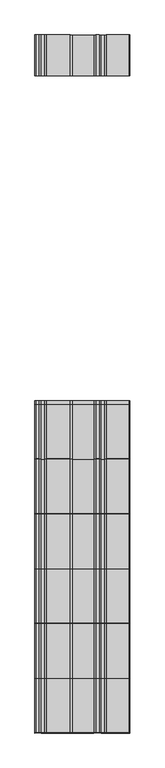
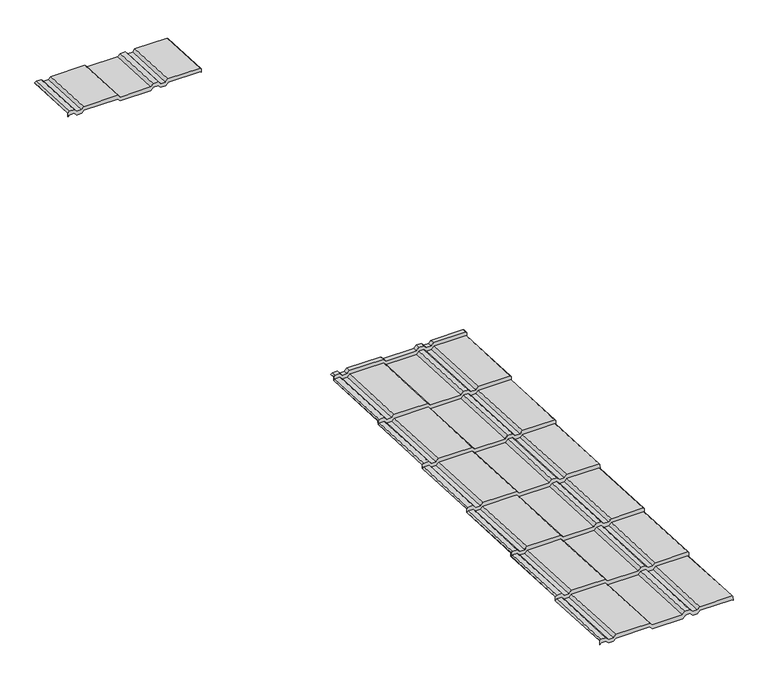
"""IFC4 building model written with IfcOpenShell, lengths in millimetres: proxy geometry, AQUAPLAST - Blachodachówka Alice na wymiar : Blachodachówka Alice."""

from ifc_helpers import new_model, si_unit, origin, place, context, project, spatial, faceted_brep, source, transform, mapped, element, save


def specialty_equipment_409f0931(model_context):
    return source(origin(), model_context, "Body", "Brep", [
        faceted_brep([(-566.0477972, 2096.6197377, 29.0407544), (-571.7598776, 2096.3357252, 23.3357391), (-571.7598776, 2095.5215377, 6.9809929), (-566.0477972, 2095.8055502, 12.6860082), (-543.5017928, 2095.8055502, 12.6860082), (-532.0017928, 2095.2337544, 1.2002323), (-510.6231132, 2095.2337544, 1.2002323), (-499.6231132, 2095.7806895, 12.1866267), (-345.1055852, 2095.7806895, 12.1866267), (-333.6055852, 2095.2088937, 0.7008507), (-195.9354926, 2095.2088937, 0.7008507), (-183.9354926, 2095.8055502, 12.6860082), (-161.7088996, 2095.8055502, 12.6860082), (-149.7088996, 2095.2088937, 0.7008507), (-128.1231132, 2095.2088937, 0.7008507), (-116.6231132, 2095.7806895, 12.1866267), (30.5086777, 2095.7806895, 12.1866267), (34.2401224, 2095.595157, 8.4597973), (34.2401224, 2096.4093445, 24.8145435), (30.5086777, 2096.594877, 28.5413729), (-116.6231132, 2096.594877, 28.5413729), (-128.1231132, 2096.0230812, 17.0555969), (-149.7088996, 2096.0230812, 17.0555969), (-161.7088996, 2096.6197377, 29.0407544), (-183.9354926, 2096.6197377, 29.0407544), (-195.9354926, 2096.0230812, 17.0555969), (-333.6055852, 2096.0230812, 17.0555969), (-345.1055852, 2096.594877, 28.5413729), (-499.6231132, 2096.594877, 28.5413729), (-510.6231132, 2096.0479419, 17.5549785), (-532.0017928, 2096.0479419, 17.5549785), (-543.5017928, 2096.6197377, 29.0407544), (-510.4160064, 2116.9971069, 16.0114481), (-532.2088996, 2116.9971069, 16.0114481), (-543.7088996, 2117.5689027, 27.497224), (-565.8406904, 2117.5689027, 27.497224), (-571.7598776, 2117.2745926, 21.5853581), (-571.7598776, 2117.3097509, 22.2915903), (-566.0477972, 2117.5937634, 27.9966056), (-543.5017928, 2117.5937634, 27.9966056), (-532.0017928, 2117.0219676, 16.5108296), (-510.6231132, 2117.0219676, 16.5108296), (-499.6231132, 2117.5689027, 27.497224), (-345.1055852, 2117.5689027, 27.497224), (-333.6055852, 2116.9971069, 16.0114481), (-195.9354926, 2116.9971069, 16.0114481), (-183.9354926, 2117.5937634, 27.9966056), (-161.7088996, 2117.5937634, 27.9966056), (-149.7088996, 2116.9971069, 16.0114481), (-128.1231132, 2116.9971069, 16.0114481), (-116.6231132, 2117.5689027, 27.497224), (30.5086777, 2117.5689027, 27.497224), (34.2401224, 2117.3833701, 23.7703947), (34.2401224, 2117.3482118, 23.0641625), (30.3015709, 2117.544042, 26.9978425), (-116.4160064, 2117.544042, 26.9978425), (-127.9160064, 2116.9722462, 15.5120665), (-149.9160064, 2116.9722462, 15.5120665), (-161.9160064, 2117.5689027, 27.497224), (-183.7283858, 2117.5689027, 27.497224), (-195.7283858, 2116.9722462, 15.5120665), (-333.8126919, 2116.9722462, 15.5120665), (-345.3126919, 2117.544042, 26.9978425), (-499.4160064, 2117.544042, 26.9978425), (-510.4160064, 2097.0218443, 17.0058755), (-532.2088996, 2097.0218443, 17.0058755), (-543.7088996, 2097.5936401, 28.4916515), (-565.8406904, 2097.5936401, 28.4916515), (-571.7598776, 2097.29933, 22.5797856), (-566.0477972, 2097.6185008, 28.9910331), (-543.5017928, 2097.6185008, 28.9910331), (-532.0017928, 2097.046705, 17.5052571), (-510.6231132, 2097.046705, 17.5052571), (-499.6231132, 2097.5936401, 28.4916515), (-345.1055852, 2097.5936401, 28.4916515), (-333.6055852, 2097.0218443, 17.0058755), (-195.9354926, 2097.0218443, 17.0058755), (-183.9354926, 2097.6185008, 28.9910331), (-161.7088996, 2097.6185008, 28.9910331), (-149.7088996, 2097.0218443, 17.0058755), (-128.1231132, 2097.0218443, 17.0058755), (-116.6231132, 2097.5936401, 28.4916515), (30.5086777, 2097.5936401, 28.4916515), (34.2401224, 2097.3729493, 24.0585899), (30.3015709, 2097.5687795, 27.9922699), (-116.4160064, 2097.5687795, 27.9922699), (-127.9160064, 2096.9969837, 16.506494), (-149.9160064, 2096.9969837, 16.506494), (-161.9160064, 2097.5936401, 28.4916515), (-183.7283858, 2097.5936401, 28.4916515), (-195.7283858, 2096.9969837, 16.506494), (-333.8126919, 2096.9969837, 16.506494), (-345.3126919, 2097.5687795, 27.9922699), (-499.4160064, 2097.5687795, 27.9922699), (-566.0477972, 1396.8, 29.9628938), (-571.7598776, 1396.5159875, 24.2578785), (-571.7598776, 1395.6504822, 6.8723021), (-565.8406904, 1395.9447924, 12.784168), (-543.7088996, 1395.9447924, 12.784168), (-532.2088996, 1395.3729966, 1.2983921), (-510.4160064, 1395.3729966, 1.2983921), (-499.4160064, 1395.9199317, 12.2847865), (-345.3126919, 1395.9199317, 12.2847865), (-333.8126919, 1395.3481359, 0.7990105), (-195.7283858, 1395.3481359, 0.7990105), (-183.7283858, 1395.9447924, 12.784168), (-161.9160064, 1395.9447924, 12.784168), (-149.9160064, 1395.3481359, 0.7990105), (-127.9160064, 1395.3481359, 0.7990105), (-116.4160064, 1395.9199317, 12.2847865), (30.3015709, 1395.9199317, 12.2847865), (34.2401224, 1395.7241015, 8.3511065), (34.2401224, 1396.5896068, 25.7366829), (30.5086777, 1396.7751393, 29.4635123), (-116.6231132, 1396.7751393, 29.4635123), (-128.1231132, 1396.2033435, 17.9777363), (-149.7088996, 1396.2033435, 17.9777363), (-161.7088996, 1396.8, 29.9628938), (-183.9354926, 1396.8, 29.9628938), (-195.9354926, 1396.2033435, 17.9777363), (-333.6055852, 1396.2033435, 17.9777363), (-345.1055852, 1396.7751393, 29.4635123), (-499.6231132, 1396.7751393, 29.4635123), (-510.6231132, 1396.2282042, 18.4771179), (-532.0017928, 1396.2282042, 18.4771179), (-543.5017928, 1396.8, 29.9628938), (-510.4160064, 1745.7704382, 0.5752554), (-532.2088996, 1745.7704382, 0.5752554), (-543.7088996, 1746.342234, 12.0610314), (-565.8406904, 1746.342234, 12.0610314), (-571.7598776, 1746.0479238, 6.1491655), (-571.7598776, 1746.9180479, 23.6275202), (-565.8406904, 1747.212358, 29.5393861), (-543.7088996, 1747.212358, 29.5393861), (-532.2088996, 1746.6405622, 18.0536102), (-510.4160064, 1746.6405622, 18.0536102), (-499.4160064, 1747.1874973, 29.0400046), (-345.3126919, 1747.1874973, 29.0400046), (-333.8126919, 1746.6157015, 17.5542286), (-195.7283858, 1746.6157015, 17.5542286), (-183.7283858, 1747.212358, 29.5393861), (-161.9160064, 1747.212358, 29.5393861), (-149.9160064, 1746.6157015, 17.5542286), (-127.9160064, 1746.6157015, 17.5542286), (-116.4160064, 1747.1874973, 29.0400046), (30.3015709, 1747.1874973, 29.0400046), (34.2401224, 1746.9916671, 25.1063246), (34.2401224, 1746.1215431, 7.6279699), (30.3015709, 1746.3173733, 11.5616498), (-116.4160064, 1746.3173733, 11.5616498), (-127.9160064, 1745.7455775, 0.0758739), (-149.9160064, 1745.7455775, 0.0758739), (-161.9160064, 1746.342234, 12.0610314), (-183.7283858, 1746.342234, 12.0610314), (-195.7283858, 1745.7455775, 0.0758739), (-333.8126919, 1745.7455775, 0.0758739), (-345.3126919, 1746.3173733, 11.5616498), (-499.4160064, 1746.3173733, 11.5616498), (-510.6231132, 1744.7965357, 1.1243584), (-532.0017928, 1744.7965357, 1.1243584), (-499.6231132, 1745.3434708, 12.1107528), (-345.1055852, 1745.3434708, 12.1107528), (-333.6055852, 1744.771675, 0.6249768), (-195.9354926, 1744.771675, 0.6249768), (-183.9354926, 1745.3683315, 12.6101343), (-161.7088996, 1745.3683315, 12.6101343), (-149.7088996, 1744.771675, 0.6249768), (-128.1231132, 1744.771675, 0.6249768), (-116.6231132, 1745.3434708, 12.1107528), (30.5086777, 1745.3434708, 12.1107528), (34.2401224, 1745.1579383, 8.3839234), (34.2401224, 1397.5532116, 24.9807293), (30.3015709, 1397.7490418, 28.9144093), (30.3015709, 1745.3186101, 11.6113712), (-116.4160064, 1397.7490418, 28.9144093), (-116.4160064, 1745.3186101, 11.6113712), (-127.9160064, 1397.177246, 17.4286334), (-127.9160064, 1744.7468143, 0.1255953), (-149.9160064, 1397.177246, 17.4286334), (-149.9160064, 1744.7468143, 0.1255953), (-161.9160064, 1397.7739024, 29.4137909), (-161.9160064, 1745.3434708, 12.1107528), (-183.7283858, 1397.7739024, 29.4137909), (-183.7283858, 1745.3434708, 12.1107528), (-195.7283858, 1397.177246, 17.4286334), (-195.7283858, 1744.7468143, 0.1255953), (-333.8126919, 1397.177246, 17.4286334), (-333.8126919, 1744.7468143, 0.1255953), (-345.3126919, 1397.7490418, 28.9144093), (-345.3126919, 1745.3186101, 11.6113712), (-499.4160064, 1397.7490418, 28.9144093), (-499.4160064, 1745.3186101, 11.6113712), (-510.4160064, 1397.2021066, 17.9280149), (-510.4160064, 1744.771675, 0.6249768), (-532.2088996, 1397.2021066, 17.9280149), (-532.2088996, 1744.771675, 0.6249768), (-543.7088996, 1397.7739024, 29.4137909), (-543.7088996, 1745.3434708, 12.1107528), (-565.8406904, 1397.7739024, 29.4137909), (-565.8406904, 1745.3434708, 12.1107528), (-571.7598776, 1397.4795923, 23.501925), (-566.0477972, 1745.3683315, 12.6101343), (-571.7598776, 1745.084319, 6.905119), (-543.5017928, 1745.3683315, 12.6101343), (-566.0477972, 1746.2384556, 30.0884891), (-571.7598776, 1745.9544431, 24.3834738), (34.2401224, 1746.0280623, 25.8622781), (30.5086777, 1746.2135949, 29.5891075), (-116.6231132, 1746.2135949, 29.5891075), (-128.1231132, 1745.6417991, 18.1033315), (-149.7088996, 1745.6417991, 18.1033315), (-161.7088996, 1746.2384556, 30.0884891), (-183.9354926, 1746.2384556, 30.0884891), (-195.9354926, 1745.6417991, 18.1033315), (-333.6055852, 1745.6417991, 18.1033315), (-345.1055852, 1746.2135949, 29.5891075), (-499.6231132, 1746.2135949, 29.5891075), (-510.6231132, 1745.6666598, 18.6027131), (-532.0017928, 1745.6666598, 18.6027131), (-543.5017928, 1746.2384556, 30.0884891), (30.3015709, 2096.754592, 11.6375237), (34.2401224, 2096.5587618, 7.7038437), (-116.4160064, 2096.754592, 11.6375237), (-127.9160064, 2096.1827962, 0.1517478), (-149.9160064, 2096.1827962, 0.1517478), (-161.9160064, 2096.7794527, 12.1369053), (-183.7283858, 2096.7794527, 12.1369053), (-195.7283858, 2096.1827962, 0.1517478), (-333.8126919, 2096.1827962, 0.1517478), (-345.3126919, 2096.754592, 11.6375237), (-499.4160064, 2096.754592, 11.6375237), (-510.4160064, 2096.2076569, 0.6511293), (-532.2088996, 2096.2076569, 0.6511293), (-543.7088996, 2096.7794527, 12.1369053), (-565.8406904, 2096.7794527, 12.1369053), (-571.7598776, 2096.4851425, 6.2250394), (-571.7598776, 1396.6492454, 6.8225807), (34.2401224, 1396.7228646, 8.3013851), (30.3015709, 1396.9186948, 12.2350651), (-116.4160064, 1396.9186948, 12.2350651), (-127.9160064, 1396.346899, 0.7492891), (-149.9160064, 1396.346899, 0.7492891), (-161.9160064, 1396.9435555, 12.7344467), (-183.7283858, 1396.9435555, 12.7344467), (-195.7283858, 1396.346899, 0.7492891), (-333.8126919, 1396.346899, 0.7492891), (-345.3126919, 1396.9186948, 12.2350651), (-499.4160064, 1396.9186948, 12.2350651), (-510.4160064, 1396.3717597, 1.2486707), (-532.2088996, 1396.3717597, 1.2486707), (-543.7088996, 1396.9435555, 12.7344467), (-565.8406904, 1396.9435555, 12.7344467)], [[[0, 1, 2, 3, 4, 5, 6, 7, 8, 9, 10, 11, 12, 13, 14, 15, 16, 17, 18, 19, 20, 21, 22, 23, 24, 25, 26, 27, 28, 29, 30, 31]], [[32, 33, 34, 35, 36, 37, 38, 39, 40, 41, 42, 43, 44, 45, 46, 47, 48, 49, 50, 51, 52, 53, 54, 55, 56, 57, 58, 59, 60, 61, 62, 63]], [[32, 64, 65, 33]], [[33, 65, 66, 34]], [[34, 66, 67, 35]], [[67, 68, 36, 35]], [[38, 37, 1, 0, 69]], [[31, 70, 39, 38, 69, 0]], [[30, 71, 40, 39, 70, 31]], [[29, 72, 41, 40, 71, 30]], [[28, 73, 42, 41, 72, 29]], [[27, 74, 43, 42, 73, 28]], [[26, 75, 44, 43, 74, 27]], [[25, 76, 45, 44, 75, 26]], [[24, 77, 46, 45, 76, 25]], [[23, 78, 47, 46, 77, 24]], [[22, 79, 48, 47, 78, 23]], [[21, 80, 49, 48, 79, 22]], [[20, 81, 50, 49, 80, 21]], [[19, 82, 51, 50, 81, 20]], [[82, 19, 18, 52, 51]], [[54, 53, 83, 84]], [[54, 84, 85, 55]], [[55, 85, 86, 56]], [[56, 86, 87, 57]], [[57, 87, 88, 58]], [[58, 88, 89, 59]], [[59, 89, 90, 60]], [[60, 90, 91, 61]], [[61, 91, 92, 62]], [[62, 92, 93, 63]], [[63, 93, 64, 32]], [[94, 95, 96, 97, 98, 99, 100, 101, 102, 103, 104, 105, 106, 107, 108, 109, 110, 111, 112, 113, 114, 115, 116, 117, 118, 119, 120, 121, 122, 123, 124, 125]], [[126, 127, 128, 129, 130, 131, 132, 133, 134, 135, 136, 137, 138, 139, 140, 141, 142, 143, 144, 145, 146, 147, 148, 149, 150, 151, 152, 153, 154, 155, 156, 157]], [[123, 158, 159, 124]], [[122, 160, 158, 123]], [[121, 161, 160, 122]], [[120, 162, 161, 121]], [[119, 163, 162, 120]], [[118, 164, 163, 119]], [[117, 165, 164, 118]], [[116, 166, 165, 117]], [[115, 167, 166, 116]], [[114, 168, 167, 115]], [[113, 169, 168, 114]], [[113, 112, 170, 169]], [[148, 147, 171, 172, 173]], [[148, 173, 172, 174, 175, 149]], [[149, 175, 174, 176, 177, 150]], [[150, 177, 176, 178, 179, 151]], [[151, 179, 178, 180, 181, 152]], [[152, 181, 180, 182, 183, 153]], [[153, 183, 182, 184, 185, 154]], [[154, 185, 184, 186, 187, 155]], [[155, 187, 186, 188, 189, 156]], [[156, 189, 188, 190, 191, 157]], [[157, 191, 190, 192, 193, 126]], [[126, 193, 192, 194, 195, 127]], [[127, 195, 194, 196, 197, 128]], [[128, 197, 196, 198, 199, 129]], [[199, 198, 200, 130, 129]], [[201, 202, 95, 94]], [[125, 203, 201, 94]], [[124, 159, 203, 125]], [[204, 205, 202, 201, 203, 159, 158, 160, 161, 162, 163, 164, 165, 166, 167, 168, 169, 170, 206, 207, 208, 209, 210, 211, 212, 213, 214, 215, 216, 217, 218, 219]], [[217, 6, 5, 218]], [[216, 7, 6, 217]], [[215, 8, 7, 216]], [[214, 9, 8, 215]], [[213, 10, 9, 214]], [[212, 11, 10, 213]], [[211, 12, 11, 212]], [[210, 13, 12, 211]], [[209, 14, 13, 210]], [[208, 15, 14, 209]], [[207, 16, 15, 208]], [[207, 206, 17, 16]], [[220, 221, 146, 145]], [[220, 145, 144, 222]], [[222, 144, 143, 223]], [[223, 143, 142, 224]], [[224, 142, 141, 225]], [[225, 141, 140, 226]], [[226, 140, 139, 227]], [[227, 139, 138, 228]], [[228, 138, 137, 229]], [[229, 137, 136, 230]], [[230, 136, 135, 231]], [[231, 135, 134, 232]], [[232, 134, 133, 233]], [[233, 133, 132, 234]], [[234, 132, 131, 235]], [[3, 2, 205, 204]], [[219, 4, 3, 204]], [[218, 5, 4, 219]], [[235, 68, 67, 66, 65, 64, 93, 92, 91, 90, 89, 88, 87, 86, 85, 84, 83, 221, 220, 222, 223, 224, 225, 226, 227, 228, 229, 230, 231, 232, 233, 234]], [[96, 95, 202, 205, 2, 1, 37, 36, 68, 235, 131, 130, 200, 236]], [[200, 198, 196, 194, 192, 190, 188, 186, 184, 182, 180, 178, 176, 174, 172, 171, 237, 238, 239, 240, 241, 242, 243, 244, 245, 246, 247, 248, 249, 250, 251, 236]], [[238, 237, 111, 110]], [[109, 239, 238, 110]], [[108, 240, 239, 109]], [[107, 241, 240, 108]], [[106, 242, 241, 107]], [[105, 243, 242, 106]], [[104, 244, 243, 105]], [[103, 245, 244, 104]], [[102, 246, 245, 103]], [[101, 247, 246, 102]], [[100, 248, 247, 101]], [[99, 249, 248, 100]], [[98, 250, 249, 99]], [[97, 251, 250, 98]], [[96, 236, 251, 97]], [[17, 206, 170, 112, 111, 237, 171, 147, 146, 221, 83, 53, 52, 18]]]),
        faceted_brep([(-566.0477972, 4190.4, 29.9628938), (-571.7598776, 4190.1159875, 24.2578785), (-571.7598776, 4189.2504822, 6.8723021), (-565.8406904, 4189.5447924, 12.784168), (-543.7088996, 4189.5447924, 12.784168), (-532.2088996, 4188.9729966, 1.2983921), (-510.4160064, 4188.9729966, 1.2983921), (-499.4160064, 4189.5199317, 12.2847865), (-345.3126919, 4189.5199317, 12.2847865), (-333.8126919, 4188.9481359, 0.7990105), (-195.7283858, 4188.9481359, 0.7990105), (-183.7283858, 4189.5447924, 12.784168), (-161.9160064, 4189.5447924, 12.784168), (-149.9160064, 4188.9481359, 0.7990105), (-127.9160064, 4188.9481359, 0.7990105), (-116.4160064, 4189.5199317, 12.2847865), (30.3015709, 4189.5199317, 12.2847865), (34.2401224, 4189.3241015, 8.3511065), (34.2401224, 4190.1896068, 25.7366829), (30.5086777, 4190.3751393, 29.4635123), (-116.6231132, 4190.3751393, 29.4635123), (-128.1231132, 4189.8033435, 17.9777363), (-149.7088996, 4189.8033435, 17.9777363), (-161.7088996, 4190.4, 29.9628938), (-183.9354926, 4190.4, 29.9628938), (-195.9354926, 4189.8033435, 17.9777363), (-333.6055852, 4189.8033435, 17.9777363), (-345.1055852, 4190.3751393, 29.4635123), (-499.6231132, 4190.3751393, 29.4635123), (-510.6231132, 4189.8282042, 18.4771179), (-532.0017928, 4189.8282042, 18.4771179), (-543.5017928, 4190.4, 29.9628938), (-510.6231132, 4449.4566792, 5.5520467), (-532.0017928, 4449.4566792, 5.5520467), (-499.6231132, 4450.0036143, 16.5384411), (-345.1055852, 4450.0036143, 16.5384411), (-333.6055852, 4449.4318185, 5.0526652), (-195.9354926, 4449.4318185, 5.0526652), (-183.9354926, 4450.028475, 17.0378227), (-161.7088996, 4450.028475, 17.0378227), (-149.7088996, 4449.4318185, 5.0526652), (-128.1231132, 4449.4318185, 5.0526652), (-116.6231132, 4450.0036143, 16.5384411), (30.5086777, 4450.0036143, 16.5384411), (34.2401224, 4449.8180818, 12.8116118), (30.3015709, 4449.9787536, 16.0390596), (34.2401224, 4449.7829234, 12.1053796), (34.2401224, 4191.1532116, 24.9807293), (30.3015709, 4191.3490418, 28.9144093), (-116.4160064, 4191.3490418, 28.9144093), (-116.4160064, 4449.9787536, 16.0390596), (-127.9160064, 4190.777246, 17.4286334), (-127.9160064, 4449.4069578, 4.5532836), (-149.9160064, 4190.777246, 17.4286334), (-149.9160064, 4449.4069578, 4.5532836), (-161.9160064, 4191.3739024, 29.4137909), (-161.9160064, 4450.0036143, 16.5384411), (-183.7283858, 4191.3739024, 29.4137909), (-183.7283858, 4450.0036143, 16.5384411), (-195.7283858, 4190.777246, 17.4286334), (-195.7283858, 4449.4069578, 4.5532836), (-333.8126919, 4190.777246, 17.4286334), (-333.8126919, 4449.4069578, 4.5532836), (-345.3126919, 4191.3490418, 28.9144093), (-345.3126919, 4449.9787536, 16.0390596), (-499.4160064, 4191.3490418, 28.9144093), (-499.4160064, 4449.9787536, 16.0390596), (-510.4160064, 4190.8021066, 17.9280149), (-510.4160064, 4449.4318185, 5.0526652), (-532.2088996, 4190.8021066, 17.9280149), (-532.2088996, 4449.4318185, 5.0526652), (-543.7088996, 4191.3739024, 29.4137909), (-543.7088996, 4450.0036143, 16.5384411), (-565.8406904, 4191.3739024, 29.4137909), (-565.8406904, 4450.0036143, 16.5384411), (-571.7598776, 4191.0795923, 23.501925), (-571.7598776, 4449.7093042, 10.6265752), (-566.0477972, 4450.028475, 17.0378227), (-571.7598776, 4449.7444625, 11.3328074), (-543.5017928, 4450.028475, 17.0378227), (34.2401224, 4190.3228646, 8.3013851), (30.3015709, 4190.5186948, 12.2350651), (-116.4160064, 4190.5186948, 12.2350651), (-127.9160064, 4189.946899, 0.7492891), (-149.9160064, 4189.946899, 0.7492891), (-161.9160064, 4190.5435555, 12.7344467), (-183.7283858, 4190.5435555, 12.7344467), (-195.7283858, 4189.946899, 0.7492891), (-333.8126919, 4189.946899, 0.7492891), (-345.3126919, 4190.5186948, 12.2350651), (-499.4160064, 4190.5186948, 12.2350651), (-510.4160064, 4189.9717597, 1.2486707), (-532.2088996, 4189.9717597, 1.2486707), (-543.7088996, 4190.5435555, 12.7344467), (-565.8406904, 4190.5435555, 12.7344467), (-571.7598776, 4190.2492454, 6.8225807)], [[[0, 1, 2, 3, 4, 5, 6, 7, 8, 9, 10, 11, 12, 13, 14, 15, 16, 17, 18, 19, 20, 21, 22, 23, 24, 25, 26, 27, 28, 29, 30, 31]], [[29, 32, 33, 30]], [[28, 34, 32, 29]], [[27, 35, 34, 28]], [[26, 36, 35, 27]], [[25, 37, 36, 26]], [[24, 38, 37, 25]], [[23, 39, 38, 24]], [[22, 40, 39, 23]], [[21, 41, 40, 22]], [[20, 42, 41, 21]], [[19, 43, 42, 20]], [[19, 18, 44, 43]], [[45, 46, 47, 48]], [[45, 48, 49, 50]], [[50, 49, 51, 52]], [[52, 51, 53, 54]], [[54, 53, 55, 56]], [[56, 55, 57, 58]], [[58, 57, 59, 60]], [[60, 59, 61, 62]], [[62, 61, 63, 64]], [[64, 63, 65, 66]], [[66, 65, 67, 68]], [[68, 67, 69, 70]], [[70, 69, 71, 72]], [[72, 71, 73, 74]], [[74, 73, 75, 76]], [[77, 78, 1, 0]], [[31, 79, 77, 0]], [[30, 33, 79, 31]], [[75, 73, 71, 69, 67, 65, 63, 61, 59, 57, 55, 53, 51, 49, 48, 47, 80, 81, 82, 83, 84, 85, 86, 87, 88, 89, 90, 91, 92, 93, 94, 95]], [[81, 80, 17, 16]], [[15, 82, 81, 16]], [[14, 83, 82, 15]], [[13, 84, 83, 14]], [[12, 85, 84, 13]], [[11, 86, 85, 12]], [[10, 87, 86, 11]], [[9, 88, 87, 10]], [[8, 89, 88, 9]], [[7, 90, 89, 8]], [[6, 91, 90, 7]], [[5, 92, 91, 6]], [[4, 93, 92, 5]], [[3, 94, 93, 4]], [[2, 95, 94, 3]], [[32, 34, 35, 36, 37, 38, 39, 40, 41, 42, 43, 44, 46, 45, 50, 52, 54, 56, 58, 60, 62, 64, 66, 68, 70, 72, 74, 76, 78, 77, 79, 33]], [[17, 80, 47, 46, 44, 18]], [[2, 1, 78, 76, 75, 95]]]),
        faceted_brep([(-566.0477972, 1398.2197377, 29.0407544), (-571.7598776, 1397.9357252, 23.3357391), (-571.7598776, 1397.1215377, 6.9809929), (-566.0477972, 1397.4055502, 12.6860082), (-543.5017928, 1397.4055502, 12.6860082), (-532.0017928, 1396.8337544, 1.2002323), (-510.6231132, 1396.8337544, 1.2002323), (-499.6231132, 1397.3806895, 12.1866267), (-345.1055852, 1397.3806895, 12.1866267), (-333.6055852, 1396.8088937, 0.7008507), (-195.9354926, 1396.8088937, 0.7008507), (-183.9354926, 1397.4055502, 12.6860082), (-161.7088996, 1397.4055502, 12.6860082), (-149.7088996, 1396.8088937, 0.7008507), (-128.1231132, 1396.8088937, 0.7008507), (-116.6231132, 1397.3806895, 12.1866267), (30.5086777, 1397.3806895, 12.1866267), (34.2401224, 1397.195157, 8.4597973), (34.2401224, 1398.0093445, 24.8145435), (30.5086777, 1398.194877, 28.5413729), (-116.6231132, 1398.194877, 28.5413729), (-128.1231132, 1397.6230812, 17.0555969), (-149.7088996, 1397.6230812, 17.0555969), (-161.7088996, 1398.2197377, 29.0407544), (-183.9354926, 1398.2197377, 29.0407544), (-195.9354926, 1397.6230812, 17.0555969), (-333.6055852, 1397.6230812, 17.0555969), (-345.1055852, 1398.194877, 28.5413729), (-499.6231132, 1398.194877, 28.5413729), (-510.6231132, 1397.6479419, 17.5549785), (-532.0017928, 1397.6479419, 17.5549785), (-543.5017928, 1398.2197377, 29.0407544), (-510.4160064, 1418.5971069, 16.0114481), (-532.2088996, 1418.5971069, 16.0114481), (-543.7088996, 1419.1689027, 27.497224), (-565.8406904, 1419.1689027, 27.497224), (-571.7598776, 1418.8745926, 21.5853581), (-571.7598776, 1418.9097509, 22.2915903), (-566.0477972, 1419.1937634, 27.9966056), (-543.5017928, 1419.1937634, 27.9966056), (-532.0017928, 1418.6219676, 16.5108296), (-510.6231132, 1418.6219676, 16.5108296), (-499.6231132, 1419.1689027, 27.497224), (-345.1055852, 1419.1689027, 27.497224), (-333.6055852, 1418.5971069, 16.0114481), (-195.9354926, 1418.5971069, 16.0114481), (-183.9354926, 1419.1937634, 27.9966056), (-161.7088996, 1419.1937634, 27.9966056), (-149.7088996, 1418.5971069, 16.0114481), (-128.1231132, 1418.5971069, 16.0114481), (-116.6231132, 1419.1689027, 27.497224), (30.5086777, 1419.1689027, 27.497224), (34.2401224, 1418.9833701, 23.7703947), (34.2401224, 1418.9482118, 23.0641625), (30.3015709, 1419.144042, 26.9978425), (-116.4160064, 1419.144042, 26.9978425), (-127.9160064, 1418.5722462, 15.5120665), (-149.9160064, 1418.5722462, 15.5120665), (-161.9160064, 1419.1689027, 27.497224), (-183.7283858, 1419.1689027, 27.497224), (-195.7283858, 1418.5722462, 15.5120665), (-333.8126919, 1418.5722462, 15.5120665), (-345.3126919, 1419.144042, 26.9978425), (-499.4160064, 1419.144042, 26.9978425), (-510.4160064, 1398.6218443, 17.0058755), (-532.2088996, 1398.6218443, 17.0058755), (-543.7088996, 1399.1936401, 28.4916515), (-565.8406904, 1399.1936401, 28.4916515), (-571.7598776, 1398.89933, 22.5797856), (-566.0477972, 1399.2185008, 28.9910331), (-543.5017928, 1399.2185008, 28.9910331), (-532.0017928, 1398.646705, 17.5052571), (-510.6231132, 1398.646705, 17.5052571), (-499.6231132, 1399.1936401, 28.4916515), (-345.1055852, 1399.1936401, 28.4916515), (-333.6055852, 1398.6218443, 17.0058755), (-195.9354926, 1398.6218443, 17.0058755), (-183.9354926, 1399.2185008, 28.9910331), (-161.7088996, 1399.2185008, 28.9910331), (-149.7088996, 1398.6218443, 17.0058755), (-128.1231132, 1398.6218443, 17.0058755), (-116.6231132, 1399.1936401, 28.4916515), (30.5086777, 1399.1936401, 28.4916515), (34.2401224, 1398.9729493, 24.0585899), (30.3015709, 1399.1687795, 27.9922699), (-116.4160064, 1399.1687795, 27.9922699), (-127.9160064, 1398.5969837, 16.506494), (-149.9160064, 1398.5969837, 16.506494), (-161.9160064, 1399.1936401, 28.4916515), (-183.7283858, 1399.1936401, 28.4916515), (-195.7283858, 1398.5969837, 16.506494), (-333.8126919, 1398.5969837, 16.506494), (-345.3126919, 1399.1687795, 27.9922699), (-499.4160064, 1399.1687795, 27.9922699), (-566.0477972, 698.4, 29.9628938), (-571.7598776, 698.1159875, 24.2578785), (-571.7598776, 697.2504822, 6.8723021), (-565.8406904, 697.5447924, 12.784168), (-543.7088996, 697.5447924, 12.784168), (-532.2088996, 696.9729966, 1.2983921), (-510.4160064, 696.9729966, 1.2983921), (-499.4160064, 697.5199317, 12.2847865), (-345.3126919, 697.5199317, 12.2847865), (-333.8126919, 696.9481359, 0.7990105), (-195.7283858, 696.9481359, 0.7990105), (-183.7283858, 697.5447924, 12.784168), (-161.9160064, 697.5447924, 12.784168), (-149.9160064, 696.9481359, 0.7990105), (-127.9160064, 696.9481359, 0.7990105), (-116.4160064, 697.5199317, 12.2847865), (30.3015709, 697.5199317, 12.2847865), (34.2401224, 697.3241015, 8.3511065), (34.2401224, 698.1896068, 25.7366829), (30.5086777, 698.3751393, 29.4635123), (-116.6231132, 698.3751393, 29.4635123), (-128.1231132, 697.8033435, 17.9777363), (-149.7088996, 697.8033435, 17.9777363), (-161.7088996, 698.4, 29.9628938), (-183.9354926, 698.4, 29.9628938), (-195.9354926, 697.8033435, 17.9777363), (-333.6055852, 697.8033435, 17.9777363), (-345.1055852, 698.3751393, 29.4635123), (-499.6231132, 698.3751393, 29.4635123), (-510.6231132, 697.8282042, 18.4771179), (-532.0017928, 697.8282042, 18.4771179), (-543.5017928, 698.4, 29.9628938), (-510.4160064, 1047.3704382, 0.5752554), (-532.2088996, 1047.3704382, 0.5752554), (-543.7088996, 1047.942234, 12.0610314), (-565.8406904, 1047.942234, 12.0610314), (-571.7598776, 1047.6479238, 6.1491655), (-571.7598776, 1048.5180479, 23.6275202), (-565.8406904, 1048.812358, 29.5393861), (-543.7088996, 1048.812358, 29.5393861), (-532.2088996, 1048.2405622, 18.0536102), (-510.4160064, 1048.2405622, 18.0536102), (-499.4160064, 1048.7874973, 29.0400046), (-345.3126919, 1048.7874973, 29.0400046), (-333.8126919, 1048.2157015, 17.5542286), (-195.7283858, 1048.2157015, 17.5542286), (-183.7283858, 1048.812358, 29.5393861), (-161.9160064, 1048.812358, 29.5393861), (-149.9160064, 1048.2157015, 17.5542286), (-127.9160064, 1048.2157015, 17.5542286), (-116.4160064, 1048.7874973, 29.0400046), (30.3015709, 1048.7874973, 29.0400046), (34.2401224, 1048.5916671, 25.1063246), (34.2401224, 1047.7215431, 7.6279699), (30.3015709, 1047.9173733, 11.5616498), (-116.4160064, 1047.9173733, 11.5616498), (-127.9160064, 1047.3455775, 0.0758739), (-149.9160064, 1047.3455775, 0.0758739), (-161.9160064, 1047.942234, 12.0610314), (-183.7283858, 1047.942234, 12.0610314), (-195.7283858, 1047.3455775, 0.0758739), (-333.8126919, 1047.3455775, 0.0758739), (-345.3126919, 1047.9173733, 11.5616498), (-499.4160064, 1047.9173733, 11.5616498), (-510.6231132, 1046.3965357, 1.1243584), (-532.0017928, 1046.3965357, 1.1243584), (-499.6231132, 1046.9434708, 12.1107528), (-345.1055852, 1046.9434708, 12.1107528), (-333.6055852, 1046.371675, 0.6249768), (-195.9354926, 1046.371675, 0.6249768), (-183.9354926, 1046.9683315, 12.6101343), (-161.7088996, 1046.9683315, 12.6101343), (-149.7088996, 1046.371675, 0.6249768), (-128.1231132, 1046.371675, 0.6249768), (-116.6231132, 1046.9434708, 12.1107528), (30.5086777, 1046.9434708, 12.1107528), (34.2401224, 1046.7579383, 8.3839234), (34.2401224, 699.1532116, 24.9807293), (30.3015709, 699.3490418, 28.9144093), (30.3015709, 1046.9186101, 11.6113712), (-116.4160064, 699.3490418, 28.9144093), (-116.4160064, 1046.9186101, 11.6113712), (-127.9160064, 698.777246, 17.4286334), (-127.9160064, 1046.3468143, 0.1255953), (-149.9160064, 698.777246, 17.4286334), (-149.9160064, 1046.3468143, 0.1255953), (-161.9160064, 699.3739024, 29.4137909), (-161.9160064, 1046.9434708, 12.1107528), (-183.7283858, 699.3739024, 29.4137909), (-183.7283858, 1046.9434708, 12.1107528), (-195.7283858, 698.777246, 17.4286334), (-195.7283858, 1046.3468143, 0.1255953), (-333.8126919, 698.777246, 17.4286334), (-333.8126919, 1046.3468143, 0.1255953), (-345.3126919, 699.3490418, 28.9144093), (-345.3126919, 1046.9186101, 11.6113712), (-499.4160064, 699.3490418, 28.9144093), (-499.4160064, 1046.9186101, 11.6113712), (-510.4160064, 698.8021066, 17.9280149), (-510.4160064, 1046.371675, 0.6249768), (-532.2088996, 698.8021066, 17.9280149), (-532.2088996, 1046.371675, 0.6249768), (-543.7088996, 699.3739024, 29.4137909), (-543.7088996, 1046.9434708, 12.1107528), (-565.8406904, 699.3739024, 29.4137909), (-565.8406904, 1046.9434708, 12.1107528), (-571.7598776, 699.0795923, 23.501925), (-566.0477972, 1046.9683315, 12.6101343), (-571.7598776, 1046.684319, 6.905119), (-543.5017928, 1046.9683315, 12.6101343), (-566.0477972, 1047.8384556, 30.0884891), (-571.7598776, 1047.5544431, 24.3834738), (34.2401224, 1047.6280623, 25.8622781), (30.5086777, 1047.8135949, 29.5891075), (-116.6231132, 1047.8135949, 29.5891075), (-128.1231132, 1047.2417991, 18.1033315), (-149.7088996, 1047.2417991, 18.1033315), (-161.7088996, 1047.8384556, 30.0884891), (-183.9354926, 1047.8384556, 30.0884891), (-195.9354926, 1047.2417991, 18.1033315), (-333.6055852, 1047.2417991, 18.1033315), (-345.1055852, 1047.8135949, 29.5891075), (-499.6231132, 1047.8135949, 29.5891075), (-510.6231132, 1047.2666598, 18.6027131), (-532.0017928, 1047.2666598, 18.6027131), (-543.5017928, 1047.8384556, 30.0884891), (30.3015709, 1398.354592, 11.6375237), (34.2401224, 1398.1587618, 7.7038437), (-116.4160064, 1398.354592, 11.6375237), (-127.9160064, 1397.7827962, 0.1517478), (-149.9160064, 1397.7827962, 0.1517478), (-161.9160064, 1398.3794527, 12.1369053), (-183.7283858, 1398.3794527, 12.1369053), (-195.7283858, 1397.7827962, 0.1517478), (-333.8126919, 1397.7827962, 0.1517478), (-345.3126919, 1398.354592, 11.6375237), (-499.4160064, 1398.354592, 11.6375237), (-510.4160064, 1397.8076569, 0.6511293), (-532.2088996, 1397.8076569, 0.6511293), (-543.7088996, 1398.3794527, 12.1369053), (-565.8406904, 1398.3794527, 12.1369053), (-571.7598776, 1398.0851425, 6.2250394), (-571.7598776, 698.2492454, 6.8225807), (34.2401224, 698.3228646, 8.3013851), (30.3015709, 698.5186948, 12.2350651), (-116.4160064, 698.5186948, 12.2350651), (-127.9160064, 697.946899, 0.7492891), (-149.9160064, 697.946899, 0.7492891), (-161.9160064, 698.5435555, 12.7344467), (-183.7283858, 698.5435555, 12.7344467), (-195.7283858, 697.946899, 0.7492891), (-333.8126919, 697.946899, 0.7492891), (-345.3126919, 698.5186948, 12.2350651), (-499.4160064, 698.5186948, 12.2350651), (-510.4160064, 697.9717597, 1.2486707), (-532.2088996, 697.9717597, 1.2486707), (-543.7088996, 698.5435555, 12.7344467), (-565.8406904, 698.5435555, 12.7344467)], [[[0, 1, 2, 3, 4, 5, 6, 7, 8, 9, 10, 11, 12, 13, 14, 15, 16, 17, 18, 19, 20, 21, 22, 23, 24, 25, 26, 27, 28, 29, 30, 31]], [[32, 33, 34, 35, 36, 37, 38, 39, 40, 41, 42, 43, 44, 45, 46, 47, 48, 49, 50, 51, 52, 53, 54, 55, 56, 57, 58, 59, 60, 61, 62, 63]], [[32, 64, 65, 33]], [[33, 65, 66, 34]], [[34, 66, 67, 35]], [[67, 68, 36, 35]], [[38, 37, 1, 0, 69]], [[31, 70, 39, 38, 69, 0]], [[30, 71, 40, 39, 70, 31]], [[29, 72, 41, 40, 71, 30]], [[28, 73, 42, 41, 72, 29]], [[27, 74, 43, 42, 73, 28]], [[26, 75, 44, 43, 74, 27]], [[25, 76, 45, 44, 75, 26]], [[24, 77, 46, 45, 76, 25]], [[23, 78, 47, 46, 77, 24]], [[22, 79, 48, 47, 78, 23]], [[21, 80, 49, 48, 79, 22]], [[20, 81, 50, 49, 80, 21]], [[19, 82, 51, 50, 81, 20]], [[82, 19, 18, 52, 51]], [[54, 53, 83, 84]], [[54, 84, 85, 55]], [[55, 85, 86, 56]], [[56, 86, 87, 57]], [[57, 87, 88, 58]], [[58, 88, 89, 59]], [[59, 89, 90, 60]], [[60, 90, 91, 61]], [[61, 91, 92, 62]], [[62, 92, 93, 63]], [[63, 93, 64, 32]], [[94, 95, 96, 97, 98, 99, 100, 101, 102, 103, 104, 105, 106, 107, 108, 109, 110, 111, 112, 113, 114, 115, 116, 117, 118, 119, 120, 121, 122, 123, 124, 125]], [[126, 127, 128, 129, 130, 131, 132, 133, 134, 135, 136, 137, 138, 139, 140, 141, 142, 143, 144, 145, 146, 147, 148, 149, 150, 151, 152, 153, 154, 155, 156, 157]], [[123, 158, 159, 124]], [[122, 160, 158, 123]], [[121, 161, 160, 122]], [[120, 162, 161, 121]], [[119, 163, 162, 120]], [[118, 164, 163, 119]], [[117, 165, 164, 118]], [[116, 166, 165, 117]], [[115, 167, 166, 116]], [[114, 168, 167, 115]], [[113, 169, 168, 114]], [[113, 112, 170, 169]], [[148, 147, 171, 172, 173]], [[148, 173, 172, 174, 175, 149]], [[149, 175, 174, 176, 177, 150]], [[150, 177, 176, 178, 179, 151]], [[151, 179, 178, 180, 181, 152]], [[152, 181, 180, 182, 183, 153]], [[153, 183, 182, 184, 185, 154]], [[154, 185, 184, 186, 187, 155]], [[155, 187, 186, 188, 189, 156]], [[156, 189, 188, 190, 191, 157]], [[157, 191, 190, 192, 193, 126]], [[126, 193, 192, 194, 195, 127]], [[127, 195, 194, 196, 197, 128]], [[128, 197, 196, 198, 199, 129]], [[199, 198, 200, 130, 129]], [[201, 202, 95, 94]], [[125, 203, 201, 94]], [[124, 159, 203, 125]], [[204, 205, 202, 201, 203, 159, 158, 160, 161, 162, 163, 164, 165, 166, 167, 168, 169, 170, 206, 207, 208, 209, 210, 211, 212, 213, 214, 215, 216, 217, 218, 219]], [[217, 6, 5, 218]], [[216, 7, 6, 217]], [[215, 8, 7, 216]], [[214, 9, 8, 215]], [[213, 10, 9, 214]], [[212, 11, 10, 213]], [[211, 12, 11, 212]], [[210, 13, 12, 211]], [[209, 14, 13, 210]], [[208, 15, 14, 209]], [[207, 16, 15, 208]], [[207, 206, 17, 16]], [[220, 221, 146, 145]], [[220, 145, 144, 222]], [[222, 144, 143, 223]], [[223, 143, 142, 224]], [[224, 142, 141, 225]], [[225, 141, 140, 226]], [[226, 140, 139, 227]], [[227, 139, 138, 228]], [[228, 138, 137, 229]], [[229, 137, 136, 230]], [[230, 136, 135, 231]], [[231, 135, 134, 232]], [[232, 134, 133, 233]], [[233, 133, 132, 234]], [[234, 132, 131, 235]], [[3, 2, 205, 204]], [[219, 4, 3, 204]], [[218, 5, 4, 219]], [[235, 68, 67, 66, 65, 64, 93, 92, 91, 90, 89, 88, 87, 86, 85, 84, 83, 221, 220, 222, 223, 224, 225, 226, 227, 228, 229, 230, 231, 232, 233, 234]], [[96, 95, 202, 205, 2, 1, 37, 36, 68, 235, 131, 130, 200, 236]], [[200, 198, 196, 194, 192, 190, 188, 186, 184, 182, 180, 178, 176, 174, 172, 171, 237, 238, 239, 240, 241, 242, 243, 244, 245, 246, 247, 248, 249, 250, 251, 236]], [[238, 237, 111, 110]], [[109, 239, 238, 110]], [[108, 240, 239, 109]], [[107, 241, 240, 108]], [[106, 242, 241, 107]], [[105, 243, 242, 106]], [[104, 244, 243, 105]], [[103, 245, 244, 104]], [[102, 246, 245, 103]], [[101, 247, 246, 102]], [[100, 248, 247, 101]], [[99, 249, 248, 100]], [[98, 250, 249, 99]], [[97, 251, 250, 98]], [[96, 236, 251, 97]], [[17, 206, 170, 112, 111, 237, 171, 147, 146, 221, 83, 53, 52, 18]]]),
        faceted_brep([(-566.0477972, 699.8197377, 29.0407544), (-571.7598776, 699.5357252, 23.3357391), (-571.7598776, 698.7215377, 6.9809929), (-566.0477972, 699.0055502, 12.6860082), (-543.5017928, 699.0055502, 12.6860082), (-532.0017928, 698.4337544, 1.2002323), (-510.6231132, 698.4337544, 1.2002323), (-499.6231132, 698.9806895, 12.1866267), (-345.1055852, 698.9806895, 12.1866267), (-333.6055852, 698.4088937, 0.7008507), (-195.9354926, 698.4088937, 0.7008507), (-183.9354926, 699.0055502, 12.6860082), (-161.7088996, 699.0055502, 12.6860082), (-149.7088996, 698.4088937, 0.7008507), (-128.1231132, 698.4088937, 0.7008507), (-116.6231132, 698.9806895, 12.1866267), (30.5086777, 698.9806895, 12.1866267), (34.2401224, 698.795157, 8.4597973), (34.2401224, 699.6093445, 24.8145435), (30.5086777, 699.794877, 28.5413729), (-116.6231132, 699.794877, 28.5413729), (-128.1231132, 699.2230812, 17.0555969), (-149.7088996, 699.2230812, 17.0555969), (-161.7088996, 699.8197377, 29.0407544), (-183.9354926, 699.8197377, 29.0407544), (-195.9354926, 699.2230812, 17.0555969), (-333.6055852, 699.2230812, 17.0555969), (-345.1055852, 699.794877, 28.5413729), (-499.6231132, 699.794877, 28.5413729), (-510.6231132, 699.2479419, 17.5549785), (-532.0017928, 699.2479419, 17.5549785), (-543.5017928, 699.8197377, 29.0407544), (-510.4160064, 720.1971069, 16.0114481), (-532.2088996, 720.1971069, 16.0114481), (-543.7088996, 720.7689027, 27.497224), (-565.8406904, 720.7689027, 27.497224), (-571.7598776, 720.4745926, 21.5853581), (-571.7598776, 720.5097509, 22.2915903), (-566.0477972, 720.7937634, 27.9966056), (-543.5017928, 720.7937634, 27.9966056), (-532.0017928, 720.2219676, 16.5108296), (-510.6231132, 720.2219676, 16.5108296), (-499.6231132, 720.7689027, 27.497224), (-345.1055852, 720.7689027, 27.497224), (-333.6055852, 720.1971069, 16.0114481), (-195.9354926, 720.1971069, 16.0114481), (-183.9354926, 720.7937634, 27.9966056), (-161.7088996, 720.7937634, 27.9966056), (-149.7088996, 720.1971069, 16.0114481), (-128.1231132, 720.1971069, 16.0114481), (-116.6231132, 720.7689027, 27.497224), (30.5086777, 720.7689027, 27.497224), (34.2401224, 720.5833701, 23.7703947), (34.2401224, 720.5482118, 23.0641625), (30.3015709, 720.744042, 26.9978425), (-116.4160064, 720.744042, 26.9978425), (-127.9160064, 720.1722462, 15.5120665), (-149.9160064, 720.1722462, 15.5120665), (-161.9160064, 720.7689027, 27.497224), (-183.7283858, 720.7689027, 27.497224), (-195.7283858, 720.1722462, 15.5120665), (-333.8126919, 720.1722462, 15.5120665), (-345.3126919, 720.744042, 26.9978425), (-499.4160064, 720.744042, 26.9978425), (-510.4160064, 700.2218443, 17.0058755), (-532.2088996, 700.2218443, 17.0058755), (-543.7088996, 700.7936401, 28.4916515), (-565.8406904, 700.7936401, 28.4916515), (-571.7598776, 700.49933, 22.5797856), (-566.0477972, 700.8185008, 28.9910331), (-543.5017928, 700.8185008, 28.9910331), (-532.0017928, 700.246705, 17.5052571), (-510.6231132, 700.246705, 17.5052571), (-499.6231132, 700.7936401, 28.4916515), (-345.1055852, 700.7936401, 28.4916515), (-333.6055852, 700.2218443, 17.0058755), (-195.9354926, 700.2218443, 17.0058755), (-183.9354926, 700.8185008, 28.9910331), (-161.7088996, 700.8185008, 28.9910331), (-149.7088996, 700.2218443, 17.0058755), (-128.1231132, 700.2218443, 17.0058755), (-116.6231132, 700.7936401, 28.4916515), (30.5086777, 700.7936401, 28.4916515), (34.2401224, 700.5729493, 24.0585899), (30.3015709, 700.7687795, 27.9922699), (-116.4160064, 700.7687795, 27.9922699), (-127.9160064, 700.1969837, 16.506494), (-149.9160064, 700.1969837, 16.506494), (-161.9160064, 700.7936401, 28.4916515), (-183.7283858, 700.7936401, 28.4916515), (-195.7283858, 700.1969837, 16.506494), (-333.8126919, 700.1969837, 16.506494), (-345.3126919, 700.7687795, 27.9922699), (-499.4160064, 700.7687795, 27.9922699), (-566.0477972, 0.0, 29.9628938), (-571.7598776, -0.2840125, 24.2578785), (-571.7598776, -1.1495178, 6.8723021), (-565.8406904, -0.8552076, 12.784168), (-543.7088996, -0.8552076, 12.784168), (-532.2088996, -1.4270034, 1.2983921), (-510.4160064, -1.4270034, 1.2983921), (-499.4160064, -0.8800683, 12.2847865), (-345.3126919, -0.8800683, 12.2847865), (-333.8126919, -1.4518641, 0.7990105), (-195.7283858, -1.4518641, 0.7990105), (-183.7283858, -0.8552076, 12.784168), (-161.9160064, -0.8552076, 12.784168), (-149.9160064, -1.4518641, 0.7990105), (-127.9160064, -1.4518641, 0.7990105), (-116.4160064, -0.8800683, 12.2847865), (30.3015709, -0.8800683, 12.2847865), (34.2401224, -1.0758985, 8.3511065), (34.2401224, -0.2103932, 25.7366829), (30.5086777, -0.0248607, 29.4635123), (-116.6231132, -0.0248607, 29.4635123), (-128.1231132, -0.5966565, 17.9777363), (-149.7088996, -0.5966565, 17.9777363), (-161.7088996, 0.0, 29.9628938), (-183.9354926, 0.0, 29.9628938), (-195.9354926, -0.5966565, 17.9777363), (-333.6055852, -0.5966565, 17.9777363), (-345.1055852, -0.0248607, 29.4635123), (-499.6231132, -0.0248607, 29.4635123), (-510.6231132, -0.5717958, 18.4771179), (-532.0017928, -0.5717958, 18.4771179), (-543.5017928, 0.0, 29.9628938), (-510.4160064, 348.9704382, 0.5752554), (-532.2088996, 348.9704382, 0.5752554), (-543.7088996, 349.542234, 12.0610314), (-565.8406904, 349.542234, 12.0610314), (-571.7598776, 349.2479238, 6.1491655), (-571.7598776, 350.1180479, 23.6275202), (-565.8406904, 350.412358, 29.5393861), (-543.7088996, 350.412358, 29.5393861), (-532.2088996, 349.8405622, 18.0536102), (-510.4160064, 349.8405622, 18.0536102), (-499.4160064, 350.3874973, 29.0400046), (-345.3126919, 350.3874973, 29.0400046), (-333.8126919, 349.8157015, 17.5542286), (-195.7283858, 349.8157015, 17.5542286), (-183.7283858, 350.412358, 29.5393861), (-161.9160064, 350.412358, 29.5393861), (-149.9160064, 349.8157015, 17.5542286), (-127.9160064, 349.8157015, 17.5542286), (-116.4160064, 350.3874973, 29.0400046), (30.3015709, 350.3874973, 29.0400046), (34.2401224, 350.1916671, 25.1063246), (34.2401224, 349.3215431, 7.6279699), (30.3015709, 349.5173733, 11.5616498), (-116.4160064, 349.5173733, 11.5616498), (-127.9160064, 348.9455775, 0.0758739), (-149.9160064, 348.9455775, 0.0758739), (-161.9160064, 349.542234, 12.0610314), (-183.7283858, 349.542234, 12.0610314), (-195.7283858, 348.9455775, 0.0758739), (-333.8126919, 348.9455775, 0.0758739), (-345.3126919, 349.5173733, 11.5616498), (-499.4160064, 349.5173733, 11.5616498), (-510.6231132, 347.9965357, 1.1243584), (-532.0017928, 347.9965357, 1.1243584), (-499.6231132, 348.5434708, 12.1107528), (-345.1055852, 348.5434708, 12.1107528), (-333.6055852, 347.971675, 0.6249768), (-195.9354926, 347.971675, 0.6249768), (-183.9354926, 348.5683315, 12.6101343), (-161.7088996, 348.5683315, 12.6101343), (-149.7088996, 347.971675, 0.6249768), (-128.1231132, 347.971675, 0.6249768), (-116.6231132, 348.5434708, 12.1107528), (30.5086777, 348.5434708, 12.1107528), (34.2401224, 348.3579383, 8.3839234), (34.2401224, 0.7532116, 24.9807293), (30.3015709, 0.9490418, 28.9144093), (30.3015709, 348.5186101, 11.6113712), (-116.4160064, 0.9490418, 28.9144093), (-116.4160064, 348.5186101, 11.6113712), (-127.9160064, 0.377246, 17.4286334), (-127.9160064, 347.9468143, 0.1255953), (-149.9160064, 0.377246, 17.4286334), (-149.9160064, 347.9468143, 0.1255953), (-161.9160064, 0.9739024, 29.4137909), (-161.9160064, 348.5434708, 12.1107528), (-183.7283858, 0.9739024, 29.4137909), (-183.7283858, 348.5434708, 12.1107528), (-195.7283858, 0.377246, 17.4286334), (-195.7283858, 347.9468143, 0.1255953), (-333.8126919, 0.377246, 17.4286334), (-333.8126919, 347.9468143, 0.1255953), (-345.3126919, 0.9490418, 28.9144093), (-345.3126919, 348.5186101, 11.6113712), (-499.4160064, 0.9490418, 28.9144093), (-499.4160064, 348.5186101, 11.6113712), (-510.4160064, 0.4021066, 17.9280149), (-510.4160064, 347.971675, 0.6249768), (-532.2088996, 0.4021066, 17.9280149), (-532.2088996, 347.971675, 0.6249768), (-543.7088996, 0.9739024, 29.4137909), (-543.7088996, 348.5434708, 12.1107528), (-565.8406904, 0.9739024, 29.4137909), (-565.8406904, 348.5434708, 12.1107528), (-571.7598776, 0.6795923, 23.501925), (-566.0477972, 348.5683315, 12.6101343), (-571.7598776, 348.284319, 6.905119), (-543.5017928, 348.5683315, 12.6101343), (-566.0477972, 349.4384556, 30.0884891), (-571.7598776, 349.1544431, 24.3834738), (34.2401224, 349.2280623, 25.8622781), (30.5086777, 349.4135949, 29.5891075), (-116.6231132, 349.4135949, 29.5891075), (-128.1231132, 348.8417991, 18.1033315), (-149.7088996, 348.8417991, 18.1033315), (-161.7088996, 349.4384556, 30.0884891), (-183.9354926, 349.4384556, 30.0884891), (-195.9354926, 348.8417991, 18.1033315), (-333.6055852, 348.8417991, 18.1033315), (-345.1055852, 349.4135949, 29.5891075), (-499.6231132, 349.4135949, 29.5891075), (-510.6231132, 348.8666598, 18.6027131), (-532.0017928, 348.8666598, 18.6027131), (-543.5017928, 349.4384556, 30.0884891), (30.3015709, 699.954592, 11.6375237), (34.2401224, 699.7587618, 7.7038437), (-116.4160064, 699.954592, 11.6375237), (-127.9160064, 699.3827962, 0.1517478), (-149.9160064, 699.3827962, 0.1517478), (-161.9160064, 699.9794527, 12.1369053), (-183.7283858, 699.9794527, 12.1369053), (-195.7283858, 699.3827962, 0.1517478), (-333.8126919, 699.3827962, 0.1517478), (-345.3126919, 699.954592, 11.6375237), (-499.4160064, 699.954592, 11.6375237), (-510.4160064, 699.4076569, 0.6511293), (-532.2088996, 699.4076569, 0.6511293), (-543.7088996, 699.9794527, 12.1369053), (-565.8406904, 699.9794527, 12.1369053), (-571.7598776, 699.6851425, 6.2250394), (-571.7598776, -0.1507546, 6.8225807), (34.2401224, -0.0771354, 8.3013851), (30.3015709, 0.1186948, 12.2350651), (-116.4160064, 0.1186948, 12.2350651), (-127.9160064, -0.453101, 0.7492891), (-149.9160064, -0.453101, 0.7492891), (-161.9160064, 0.1435555, 12.7344467), (-183.7283858, 0.1435555, 12.7344467), (-195.7283858, -0.453101, 0.7492891), (-333.8126919, -0.453101, 0.7492891), (-345.3126919, 0.1186948, 12.2350651), (-499.4160064, 0.1186948, 12.2350651), (-510.4160064, -0.4282403, 1.2486707), (-532.2088996, -0.4282403, 1.2486707), (-543.7088996, 0.1435555, 12.7344467), (-565.8406904, 0.1435555, 12.7344467)], [[[0, 1, 2, 3, 4, 5, 6, 7, 8, 9, 10, 11, 12, 13, 14, 15, 16, 17, 18, 19, 20, 21, 22, 23, 24, 25, 26, 27, 28, 29, 30, 31]], [[32, 33, 34, 35, 36, 37, 38, 39, 40, 41, 42, 43, 44, 45, 46, 47, 48, 49, 50, 51, 52, 53, 54, 55, 56, 57, 58, 59, 60, 61, 62, 63]], [[32, 64, 65, 33]], [[33, 65, 66, 34]], [[34, 66, 67, 35]], [[67, 68, 36, 35]], [[38, 37, 1, 0, 69]], [[31, 70, 39, 38, 69, 0]], [[30, 71, 40, 39, 70, 31]], [[29, 72, 41, 40, 71, 30]], [[28, 73, 42, 41, 72, 29]], [[27, 74, 43, 42, 73, 28]], [[26, 75, 44, 43, 74, 27]], [[25, 76, 45, 44, 75, 26]], [[24, 77, 46, 45, 76, 25]], [[23, 78, 47, 46, 77, 24]], [[22, 79, 48, 47, 78, 23]], [[21, 80, 49, 48, 79, 22]], [[20, 81, 50, 49, 80, 21]], [[19, 82, 51, 50, 81, 20]], [[82, 19, 18, 52, 51]], [[54, 53, 83, 84]], [[54, 84, 85, 55]], [[55, 85, 86, 56]], [[56, 86, 87, 57]], [[57, 87, 88, 58]], [[58, 88, 89, 59]], [[59, 89, 90, 60]], [[60, 90, 91, 61]], [[61, 91, 92, 62]], [[62, 92, 93, 63]], [[63, 93, 64, 32]], [[94, 95, 96, 97, 98, 99, 100, 101, 102, 103, 104, 105, 106, 107, 108, 109, 110, 111, 112, 113, 114, 115, 116, 117, 118, 119, 120, 121, 122, 123, 124, 125]], [[126, 127, 128, 129, 130, 131, 132, 133, 134, 135, 136, 137, 138, 139, 140, 141, 142, 143, 144, 145, 146, 147, 148, 149, 150, 151, 152, 153, 154, 155, 156, 157]], [[123, 158, 159, 124]], [[122, 160, 158, 123]], [[121, 161, 160, 122]], [[120, 162, 161, 121]], [[119, 163, 162, 120]], [[118, 164, 163, 119]], [[117, 165, 164, 118]], [[116, 166, 165, 117]], [[115, 167, 166, 116]], [[114, 168, 167, 115]], [[113, 169, 168, 114]], [[113, 112, 170, 169]], [[148, 147, 171, 172, 173]], [[148, 173, 172, 174, 175, 149]], [[149, 175, 174, 176, 177, 150]], [[150, 177, 176, 178, 179, 151]], [[151, 179, 178, 180, 181, 152]], [[152, 181, 180, 182, 183, 153]], [[153, 183, 182, 184, 185, 154]], [[154, 185, 184, 186, 187, 155]], [[155, 187, 186, 188, 189, 156]], [[156, 189, 188, 190, 191, 157]], [[157, 191, 190, 192, 193, 126]], [[126, 193, 192, 194, 195, 127]], [[127, 195, 194, 196, 197, 128]], [[128, 197, 196, 198, 199, 129]], [[199, 198, 200, 130, 129]], [[201, 202, 95, 94]], [[125, 203, 201, 94]], [[124, 159, 203, 125]], [[204, 205, 202, 201, 203, 159, 158, 160, 161, 162, 163, 164, 165, 166, 167, 168, 169, 170, 206, 207, 208, 209, 210, 211, 212, 213, 214, 215, 216, 217, 218, 219]], [[217, 6, 5, 218]], [[216, 7, 6, 217]], [[215, 8, 7, 216]], [[214, 9, 8, 215]], [[213, 10, 9, 214]], [[212, 11, 10, 213]], [[211, 12, 11, 212]], [[210, 13, 12, 211]], [[209, 14, 13, 210]], [[208, 15, 14, 209]], [[207, 16, 15, 208]], [[207, 206, 17, 16]], [[220, 221, 146, 145]], [[220, 145, 144, 222]], [[222, 144, 143, 223]], [[223, 143, 142, 224]], [[224, 142, 141, 225]], [[225, 141, 140, 226]], [[226, 140, 139, 227]], [[227, 139, 138, 228]], [[228, 138, 137, 229]], [[229, 137, 136, 230]], [[230, 136, 135, 231]], [[231, 135, 134, 232]], [[232, 134, 133, 233]], [[233, 133, 132, 234]], [[234, 132, 131, 235]], [[3, 2, 205, 204]], [[219, 4, 3, 204]], [[218, 5, 4, 219]], [[235, 68, 67, 66, 65, 64, 93, 92, 91, 90, 89, 88, 87, 86, 85, 84, 83, 221, 220, 222, 223, 224, 225, 226, 227, 228, 229, 230, 231, 232, 233, 234]], [[96, 95, 202, 205, 2, 1, 37, 36, 68, 235, 131, 130, 200, 236]], [[200, 198, 196, 194, 192, 190, 188, 186, 184, 182, 180, 178, 176, 174, 172, 171, 237, 238, 239, 240, 241, 242, 243, 244, 245, 246, 247, 248, 249, 250, 251, 236]], [[238, 237, 111, 110]], [[109, 239, 238, 110]], [[108, 240, 239, 109]], [[107, 241, 240, 108]], [[106, 242, 241, 107]], [[105, 243, 242, 106]], [[104, 244, 243, 105]], [[103, 245, 244, 104]], [[102, 246, 245, 103]], [[101, 247, 246, 102]], [[100, 248, 247, 101]], [[99, 249, 248, 100]], [[98, 250, 249, 99]], [[97, 251, 250, 98]], [[96, 236, 251, 97]], [[17, 206, 170, 112, 111, 237, 171, 147, 146, 221, 83, 53, 52, 18]]]),
    ])


if __name__ == "__main__":
    model = new_model("IFC4")
    model_context = context("Model", 3, world=origin())
    ifc_project = project(units=[si_unit("LENGTHUNIT", "METRE", prefix="MILLI")], contexts=[model_context])
    site = spatial("IfcSite", under=ifc_project)
    building = spatial("IfcBuilding", under=site)
    placement = place(None, origin())
    specialty_equipment_shape = specialty_equipment_409f0931(model_context)
    element("IfcBuildingElementProxy", 1, Name="AQUAPLAST - Blachodachówka Alice na wymiar : Blachodachówka Alice", ObjectType="AQUAPLAST - Blachodachówka Alice na wymiar : Blachodachówka Alice", at=placement, inside=building, context=model_context, shape_type="MappedRepresentation", body=[
        mapped(specialty_equipment_shape, transform((0.0, 0.0, 0.0), x_axis=(1.0, 0.0, 0.0), y_axis=(0.0, 1.0, 0.0), z_axis=(0.0, 0.0, 1.0))),
    ])
    save(model, "model.ifc")
